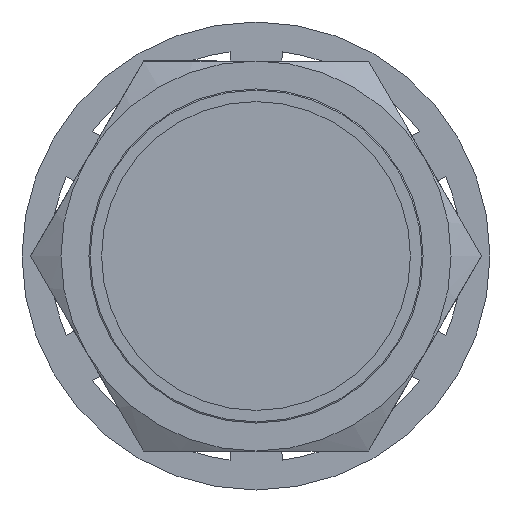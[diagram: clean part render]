
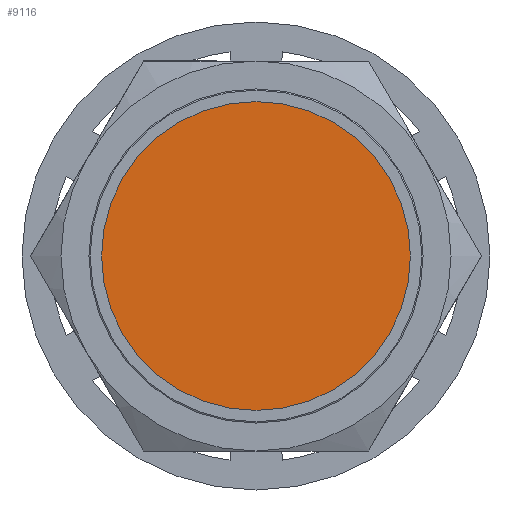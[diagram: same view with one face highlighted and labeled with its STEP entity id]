
A CAD part, left-side view. The second image highlights one B-rep face of the part: STEP entity #9116.
In plain terms, the highlighted planar face has unit normal (-1, 0, 0).
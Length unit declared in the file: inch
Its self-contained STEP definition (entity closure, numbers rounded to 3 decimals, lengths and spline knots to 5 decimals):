
#373 = CARTESIAN_POINT ( 'NONE',  ( 7.54865, 8.0391, -0.0445 ) ) ;
#492 = CIRCLE ( 'NONE', #493, 0.5465 ) ;
#493 = AXIS2_PLACEMENT_3D ( 'NONE', #494, #495, #496 ) ;
#494 = CARTESIAN_POINT ( 'NONE',  ( 7.54865, 8.0391, -0.591 ) ) ;
#495 = DIRECTION ( 'NONE',  ( 1., 0., 0. ) ) ;
#496 = DIRECTION ( 'NONE',  ( 0., 0., 1. ) ) ;
#525 = CIRCLE ( 'NONE', #526, 0.5465 ) ;
#526 = AXIS2_PLACEMENT_3D ( 'NONE', #527, #528, #529 ) ;
#527 = CARTESIAN_POINT ( 'NONE',  ( 7.54865, 8.0391, -0.591 ) ) ;
#528 = DIRECTION ( 'NONE',  ( 1., 0., 0. ) ) ;
#529 = DIRECTION ( 'NONE',  ( 0., 0., 1. ) ) ;
#1169 = CARTESIAN_POINT ( 'NONE',  ( 7.54865, 8.0391, -1.1375 ) ) ;
#2774 = FACE_OUTER_BOUND ( 'NONE', #8322, .T. ) ;
#2775 = PLANE ( 'NONE',  #2776 ) ;
#2776 = AXIS2_PLACEMENT_3D ( 'NONE', #2777, #2778, #2779 ) ;
#2777 = CARTESIAN_POINT ( 'NONE',  ( 7.54865, 8.0391, -0.591 ) ) ;
#2778 = DIRECTION ( 'NONE',  ( -1., 0., 0. ) ) ;
#2779 = DIRECTION ( 'NONE',  ( 0., 0., 1. ) ) ;
#5032 = VERTEX_POINT ( 'NONE', #373 ) ;
#5295 = EDGE_CURVE ( 'NONE', #6498, #5032, #492, .T. ) ;
#5354 = EDGE_CURVE ( 'NONE', #5032, #6498, #525, .T. ) ;
#5774 = ORIENTED_EDGE ( 'NONE', *, *, #5354, .F. ) ;
#6498 = VERTEX_POINT ( 'NONE', #1169 ) ;
#8322 = EDGE_LOOP ( 'NONE', ( #5774, #9624 ) ) ;
#9116 = ADVANCED_FACE ( 'NONE', ( #2774 ), #2775, .T. ) ;
#9624 = ORIENTED_EDGE ( 'NONE', *, *, #5295, .F. ) ;
